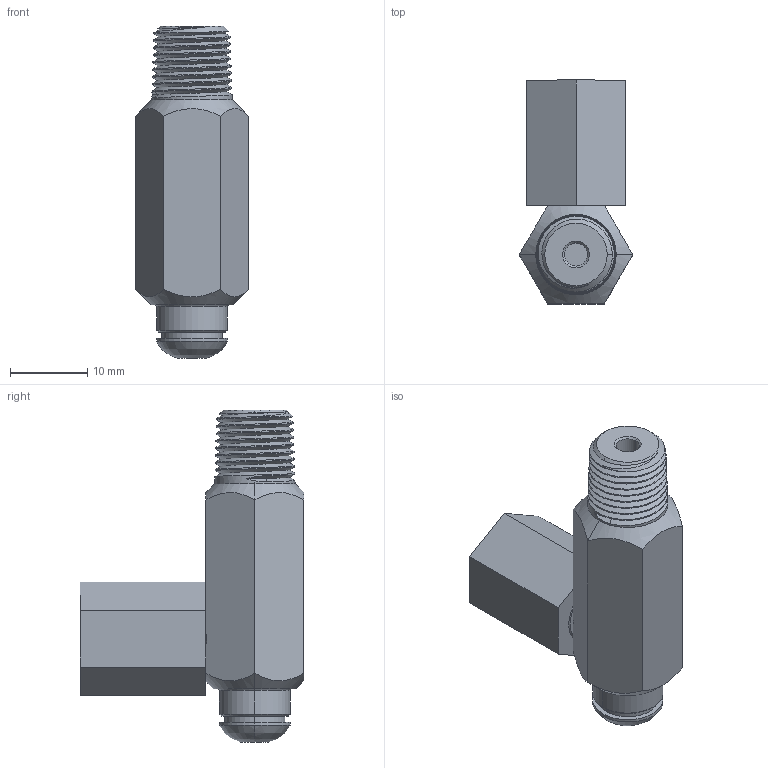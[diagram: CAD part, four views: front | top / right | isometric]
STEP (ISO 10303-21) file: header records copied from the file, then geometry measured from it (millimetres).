
FILE_DESCRIPTION(('FreeCAD Model'),'2;1');
FILE_NAME('Open CASCADE Shape Model','2026-06-05T13:08:44',(''),(''), 'Open CASCADE STEP processor 7.8','FreeCAD','Unknown');
FILE_SCHEMA(('AUTOMOTIVE_DESIGN { 1 0 10303 214 1 1 1 1 }'));
Length unit declared in the file: millimetre
Products named in the file (7): 7021867 INLET FITTING ASSEMBLY,  303SS; NORDSONEFD-7021868  INLET FITTING ASSEMBLY, ELB, 303SS - NA; NORDSONEFD-7021868  INLET FITTING ASSEMBLY, ELB, 303SS - NA001; NORDSONEFD-7021868  INLET FITTING ASSEMBLY, ELB, 303SS - NA002; NORDSONEFD-7021868  INLET FITTING ASSEMBLY, ELB, 303SS - NA003; NORDSONEFD-7021868  INLET FITTING ASSEMBLY, ELB, 303SS - NA004; NORDSONEFD-7021868  INLET FITTING ASSEMBLY, ELB, 303SS - NA005
Assembly tree (6 placements, depth 2):
  7021867 INLET FITTING ASSEMBLY,  303SS
    NORDSONEFD-7021868  INLET FITTING ASSEMBLY, ELB, 303SS - NA
    NORDSONEFD-7021868  INLET FITTING ASSEMBLY, ELB, 303SS - NA001
    NORDSONEFD-7021868  INLET FITTING ASSEMBLY, ELB, 303SS - NA002
    NORDSONEFD-7021868  INLET FITTING ASSEMBLY, ELB, 303SS - NA003
    NORDSONEFD-7021868  INLET FITTING ASSEMBLY, ELB, 303SS - NA004
    NORDSONEFD-7021868  INLET FITTING ASSEMBLY, ELB, 303SS - NA005
Bounding box: 14.66 x 28.96 x 42.94 mm (x, y, z)
Volume: 5964.9 mm3; surface area: 4907.4 mm2
Topology: 6 solids, 6 shells, 182 faces, 447 edges, 277 vertices
Faces by surface type: cone 68, plane 45, cylinder 44, bspline 15, torus 8, revolution 2
Entity records: 12674 total; most frequent: CARTESIAN_POINT 8508, ORIENTED_EDGE 890, DIRECTION 765, EDGE_CURVE 445, AXIS2_PLACEMENT_3D 307, VERTEX_POINT 277, FACE_BOUND 196, EDGE_LOOP 196
